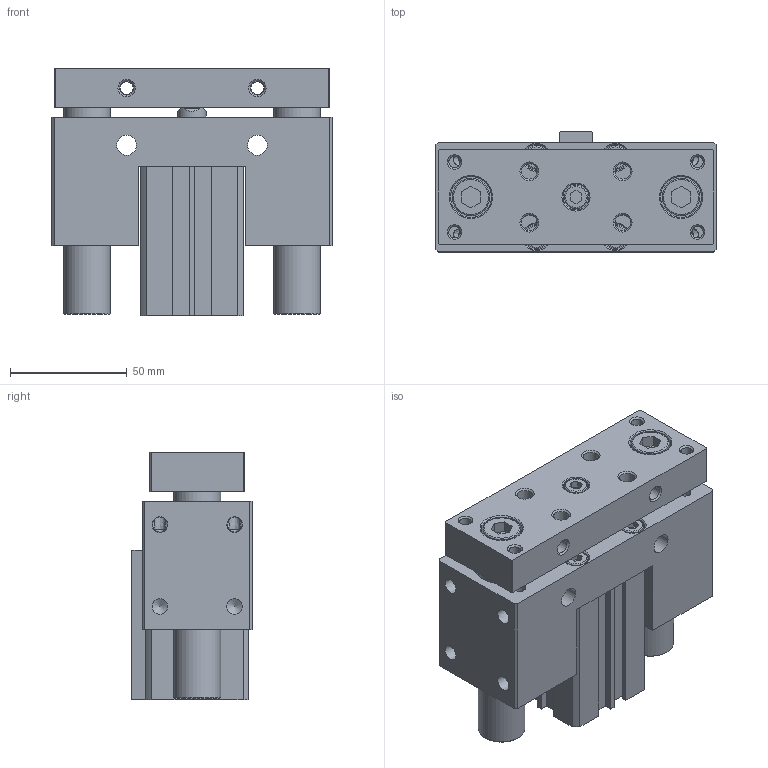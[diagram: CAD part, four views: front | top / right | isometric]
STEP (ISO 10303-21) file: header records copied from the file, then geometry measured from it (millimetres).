
FILE_DESCRIPTION((''),'2;1');
FILE_NAME('I:\3D電子目錄\氣缸\JCB\JCB\JCB32-S\JCB32x30-S.stp','2007-08-21T20:22:39',('Administrator'),(''),'Autodesk Inventor 11','Autodesk Inventor 11','');
FILE_SCHEMA(('AUTOMOTIVE_DESIGN { 1 0 10303 214 1 1 1 1 }'));
Length unit declared in the file: millimetre
Products named in the file (1): JCB32
Bounding box: 120 x 51.5 x 106 mm (x, y, z)
Volume: 415278.8 mm3; surface area: 100627 mm2
Topology: 3 solids, 3 shells, 320 faces, 754 edges, 489 vertices
Faces by surface type: plane 173, cylinder 53, bspline 45, cone 41, torus 8
Full cylindrical faces by diameter (mm): 2.2 x1, 5.1 x4, 6 x2, 6.647 x4, 8 x8, 10 x5, 11 x5, 12 x1, 13 x1, 16 x2, 17.5 x2, 20 x2, 22 x1, 23 x3, 34 x4, 36 x2
Entity records: 9272 total; most frequent: CARTESIAN_POINT 2540, DIRECTION 1340, ORIENTED_EDGE 1192, EDGE_CURVE 596, EDGE_LOOP 534, AXIS2_PLACEMENT_3D 492, VERTEX_POINT 458, VECTOR 356
